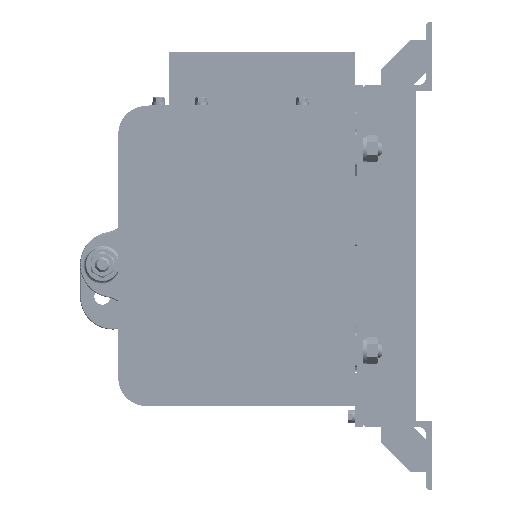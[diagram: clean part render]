
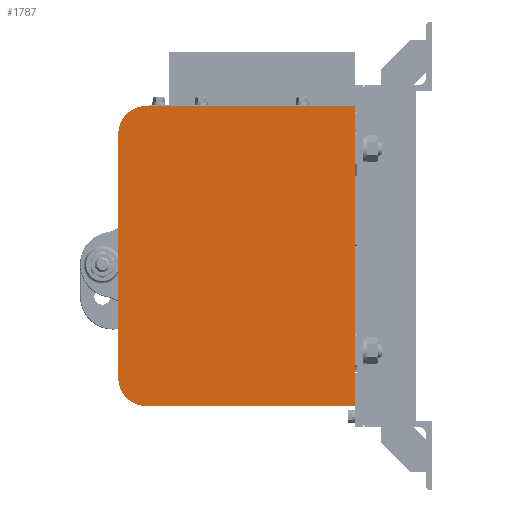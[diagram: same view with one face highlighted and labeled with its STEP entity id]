
A CAD part, left-side view. The second image highlights one B-rep face of the part: STEP entity #1787.
In plain terms, the highlighted planar face has unit normal (-1, 0, 0).
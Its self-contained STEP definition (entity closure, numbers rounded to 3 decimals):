
#1787=ADVANCED_FACE('',(#21646),#21645,.F.);
#21645=PLANE('',#130965);
#21646=FACE_OUTER_BOUND('',#130966,.T.);
#130962=CARTESIAN_POINT('',(-1339.111,-1037.059,-1331.166));
#130963=DIRECTION('',(1.,0.,0.));
#130964=DIRECTION('',(0.,0.,-1.));
#130965=AXIS2_PLACEMENT_3D('',#130962,#130963,#130964);
#130966=EDGE_LOOP('',(#212681,#212682,#212683,#212684,#212685,#212686));
#212681=ORIENTED_EDGE('',*,*,#239004,.F.);
#212682=ORIENTED_EDGE('',*,*,#239005,.F.);
#212683=ORIENTED_EDGE('',*,*,#239006,.F.);
#212684=ORIENTED_EDGE('',*,*,#239007,.F.);
#212685=ORIENTED_EDGE('',*,*,#239008,.F.);
#212686=ORIENTED_EDGE('',*,*,#239009,.F.);
#239004=EDGE_CURVE('',#282910,#282911,#282912,.T.);
#239005=EDGE_CURVE('',#282918,#282910,#282919,.T.);
#239006=EDGE_CURVE('',#282925,#282918,#282926,.T.);
#239007=EDGE_CURVE('',#282932,#282925,#282933,.T.);
#239008=EDGE_CURVE('',#282939,#282932,#282940,.T.);
#239009=EDGE_CURVE('',#282911,#282939,#282946,.T.);
#282910=VERTEX_POINT('',#383659);
#282911=VERTEX_POINT('',#383660);
#282912=CIRCLE('',#383664,26.);
#282918=VERTEX_POINT('',#383665);
#282919=LINE('',#383666,#383667);
#282925=VERTEX_POINT('',#383669);
#282926=CIRCLE('',#383673,26.);
#282932=VERTEX_POINT('',#383674);
#282933=LINE('',#383675,#383676);
#282939=VERTEX_POINT('',#383678);
#282940=LINE('',#383679,#383680);
#282946=LINE('',#383682,#383683);
#383659=CARTESIAN_POINT('',(-1339.111,-804.059,-1367.166));
#383660=CARTESIAN_POINT('',(-1339.111,-830.059,-1341.166));
#383661=CARTESIAN_POINT('',(-1339.111,-830.059,-1367.166));
#383662=DIRECTION('',(1.,0.,0.));
#383663=DIRECTION('',(0.,0.,1.));
#383664=AXIS2_PLACEMENT_3D('',#383661,#383662,#383663);
#383665=CARTESIAN_POINT('',(-1339.111,-804.059,-1597.166));
#383666=CARTESIAN_POINT('',(-1339.111,-804.059,-1597.166));
#383667=VECTOR('',#383668,230.);
#383668=DIRECTION('',(0.,0.,1.));
#383669=CARTESIAN_POINT('',(-1339.111,-830.059,-1623.166));
#383670=CARTESIAN_POINT('',(-1339.111,-830.059,-1597.166));
#383671=DIRECTION('',(1.,0.,0.));
#383672=DIRECTION('',(0.,0.,1.));
#383673=AXIS2_PLACEMENT_3D('',#383670,#383671,#383672);
#383674=CARTESIAN_POINT('',(-1339.111,-1027.059,-1623.166));
#383675=CARTESIAN_POINT('',(-1339.111,-1027.059,-1623.166));
#383676=VECTOR('',#383677,197.);
#383677=DIRECTION('',(0.,1.,0.));
#383678=CARTESIAN_POINT('',(-1339.111,-1027.059,-1341.166));
#383679=CARTESIAN_POINT('',(-1339.111,-1027.059,-1341.166));
#383680=VECTOR('',#383681,282.);
#383681=DIRECTION('',(0.,0.,-1.));
#383682=CARTESIAN_POINT('',(-1339.111,-830.059,-1341.166));
#383683=VECTOR('',#383684,197.);
#383684=DIRECTION('',(0.,-1.,0.));
